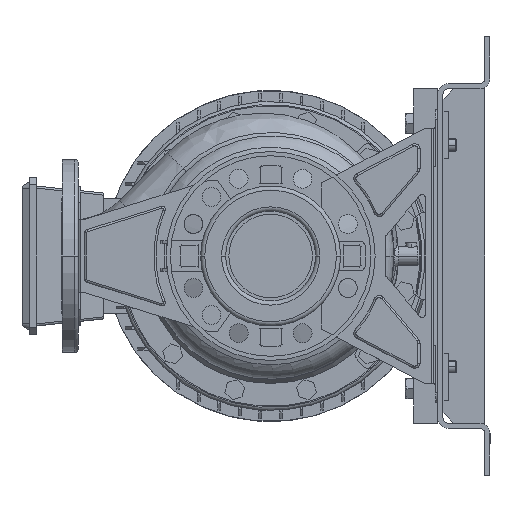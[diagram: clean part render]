
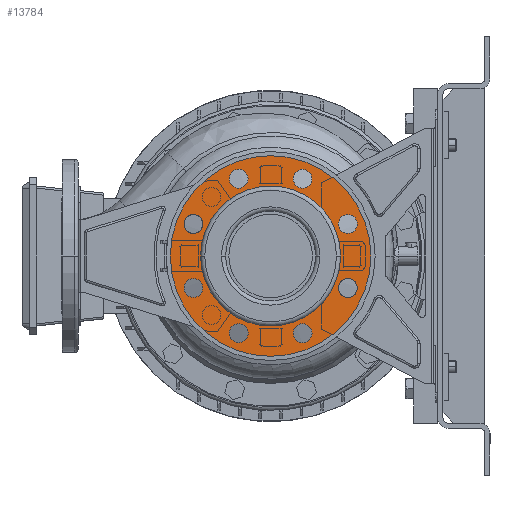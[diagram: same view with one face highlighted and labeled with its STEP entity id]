
A CAD part, left-side view. The second image highlights one B-rep face of the part: STEP entity #13784.
In plain terms, the highlighted planar face has unit normal (-1, 0, 0).
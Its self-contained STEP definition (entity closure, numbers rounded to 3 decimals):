
#12917=CARTESIAN_POINT('',(14.,0.,0.));
#12918=DIRECTION('',(-1.,0.,0.));
#12919=DIRECTION('',(0.,1.,0.));
#12920=AXIS2_PLACEMENT_3D('',#12917,#12918,#12919);
#12925=CARTESIAN_POINT('',(14.,0.,0.));
#12926=DIRECTION('',(1.,0.,0.));
#12927=DIRECTION('',(0.,1.,0.));
#12928=AXIS2_PLACEMENT_3D('',#12925,#12926,#12927);
#12933=CARTESIAN_POINT('',(14.,-73.91,30.615));
#12934=DIRECTION('',(1.,0.,0.));
#12935=DIRECTION('',(0.,1.,0.));
#12936=AXIS2_PLACEMENT_3D('',#12933,#12934,#12935);
#12941=CARTESIAN_POINT('',(14.,-73.91,30.615));
#12942=DIRECTION('',(1.,0.,0.));
#12943=DIRECTION('',(0.,-1.,0.));
#12944=AXIS2_PLACEMENT_3D('',#12941,#12942,#12943);
#12949=CARTESIAN_POINT('',(14.,-73.91,-30.615));
#12950=DIRECTION('',(1.,0.,0.));
#12951=DIRECTION('',(0.,0.707,0.707));
#12952=AXIS2_PLACEMENT_3D('',#12949,#12950,#12951);
#12957=CARTESIAN_POINT('',(14.,-73.91,-30.615));
#12958=DIRECTION('',(1.,0.,0.));
#12959=DIRECTION('',(0.,-0.707,-0.707));
#12960=AXIS2_PLACEMENT_3D('',#12957,#12958,#12959);
#12965=CARTESIAN_POINT('',(14.,-30.615,-73.91));
#12966=DIRECTION('',(1.,0.,0.));
#12967=DIRECTION('',(0.,0.,1.));
#12968=AXIS2_PLACEMENT_3D('',#12965,#12966,#12967);
#12973=CARTESIAN_POINT('',(14.,-30.615,-73.91));
#12974=DIRECTION('',(1.,0.,0.));
#12975=DIRECTION('',(0.,0.,-1.));
#12976=AXIS2_PLACEMENT_3D('',#12973,#12974,#12975);
#12981=CARTESIAN_POINT('',(14.,30.615,-73.91));
#12982=DIRECTION('',(1.,0.,0.));
#12983=DIRECTION('',(0.,-0.707,0.707));
#12984=AXIS2_PLACEMENT_3D('',#12981,#12982,#12983);
#12989=CARTESIAN_POINT('',(14.,30.615,-73.91));
#12990=DIRECTION('',(1.,0.,0.));
#12991=DIRECTION('',(0.,0.707,-0.707));
#12992=AXIS2_PLACEMENT_3D('',#12989,#12990,#12991);
#12997=CARTESIAN_POINT('',(14.,73.91,-30.615));
#12998=DIRECTION('',(1.,0.,0.));
#12999=DIRECTION('',(0.,-1.,0.));
#13000=AXIS2_PLACEMENT_3D('',#12997,#12998,#12999);
#13005=CARTESIAN_POINT('',(14.,73.91,-30.615));
#13006=DIRECTION('',(1.,0.,0.));
#13007=DIRECTION('',(0.,1.,0.));
#13008=AXIS2_PLACEMENT_3D('',#13005,#13006,#13007);
#13013=CARTESIAN_POINT('',(14.,73.91,30.615));
#13014=DIRECTION('',(1.,0.,0.));
#13015=DIRECTION('',(0.,-0.707,-0.707));
#13016=AXIS2_PLACEMENT_3D('',#13013,#13014,#13015);
#13021=CARTESIAN_POINT('',(14.,73.91,30.615));
#13022=DIRECTION('',(1.,0.,0.));
#13023=DIRECTION('',(0.,0.707,0.707));
#13024=AXIS2_PLACEMENT_3D('',#13021,#13022,#13023);
#13029=CARTESIAN_POINT('',(14.,30.615,73.91));
#13030=DIRECTION('',(1.,0.,0.));
#13031=DIRECTION('',(0.,0.,-1.));
#13032=AXIS2_PLACEMENT_3D('',#13029,#13030,#13031);
#13037=CARTESIAN_POINT('',(14.,30.615,73.91));
#13038=DIRECTION('',(1.,0.,0.));
#13039=DIRECTION('',(0.,0.,1.));
#13040=AXIS2_PLACEMENT_3D('',#13037,#13038,#13039);
#13045=CARTESIAN_POINT('',(14.,-30.615,73.91));
#13046=DIRECTION('',(1.,0.,0.));
#13047=DIRECTION('',(0.,0.707,-0.707));
#13048=AXIS2_PLACEMENT_3D('',#13045,#13046,#13047);
#13053=CARTESIAN_POINT('',(14.,-30.615,73.91));
#13054=DIRECTION('',(1.,0.,0.));
#13055=DIRECTION('',(0.,-0.707,0.707));
#13056=AXIS2_PLACEMENT_3D('',#13053,#13054,#13055);
#13061=CARTESIAN_POINT('',(14.,0.,0.));
#13062=DIRECTION('',(1.,0.,0.));
#13063=DIRECTION('',(0.,1.,0.));
#13064=AXIS2_PLACEMENT_3D('',#13061,#13062,#13063);
#13083=CARTESIAN_POINT('',(14.,0.,0.));
#13084=DIRECTION('',(-1.,0.,0.));
#13085=DIRECTION('',(0.,1.,0.));
#13086=AXIS2_PLACEMENT_3D('',#13083,#13084,#13085);
#13304=CARTESIAN_POINT('',(14.,96.,0.));
#13306=VERTEX_POINT('',#13304);
#13307=CARTESIAN_POINT('',(14.,67.,0.));
#13309=VERTEX_POINT('',#13307);
#13336=CARTESIAN_POINT('',(14.,-96.,0.));
#13338=VERTEX_POINT('',#13336);
#13339=CARTESIAN_POINT('',(14.,-67.,0.));
#13341=VERTEX_POINT('',#13339);
#13351=CARTESIAN_POINT('',(14.,-64.91,30.615));
#13352=CARTESIAN_POINT('',(14.,-82.91,30.615));
#13353=VERTEX_POINT('',#13351);
#13354=VERTEX_POINT('',#13352);
#13359=CARTESIAN_POINT('',(14.,-67.546,-24.251));
#13360=CARTESIAN_POINT('',(14.,-80.274,-36.979));
#13361=VERTEX_POINT('',#13359);
#13362=VERTEX_POINT('',#13360);
#13367=CARTESIAN_POINT('',(14.,-30.615,-64.91));
#13368=CARTESIAN_POINT('',(14.,-30.615,-82.91));
#13369=VERTEX_POINT('',#13367);
#13370=VERTEX_POINT('',#13368);
#13375=CARTESIAN_POINT('',(14.,24.251,-67.546));
#13376=CARTESIAN_POINT('',(14.,36.979,-80.274));
#13377=VERTEX_POINT('',#13375);
#13378=VERTEX_POINT('',#13376);
#13383=CARTESIAN_POINT('',(14.,64.91,-30.615));
#13384=CARTESIAN_POINT('',(14.,82.91,-30.615));
#13385=VERTEX_POINT('',#13383);
#13386=VERTEX_POINT('',#13384);
#13391=CARTESIAN_POINT('',(14.,67.546,24.251));
#13392=CARTESIAN_POINT('',(14.,80.274,36.979));
#13393=VERTEX_POINT('',#13391);
#13394=VERTEX_POINT('',#13392);
#13399=CARTESIAN_POINT('',(14.,30.615,64.91));
#13400=CARTESIAN_POINT('',(14.,30.615,82.91));
#13401=VERTEX_POINT('',#13399);
#13402=VERTEX_POINT('',#13400);
#13407=CARTESIAN_POINT('',(14.,-24.251,67.546));
#13408=CARTESIAN_POINT('',(14.,-36.979,80.274));
#13409=VERTEX_POINT('',#13407);
#13410=VERTEX_POINT('',#13408);
#13721=CARTESIAN_POINT('',(14.,0.,0.));
#13722=DIRECTION('',(1.,0.,0.));
#13723=DIRECTION('',(0.,-1.,0.));
#13724=AXIS2_PLACEMENT_3D('',#13721,#13722,#13723);
#13725=PLANE('',#13724);
#13726=ORIENTED_EDGE('',*,*,#13714,.F.);
#13727=ORIENTED_EDGE('',*,*,#13703,.T.);
#13728=EDGE_LOOP('',(#13726,#13727));
#13729=FACE_OUTER_BOUND('',#13728,.F.);
#13731=ORIENTED_EDGE('',*,*,#13730,.F.);
#13733=ORIENTED_EDGE('',*,*,#13732,.T.);
#13734=EDGE_LOOP('',(#13731,#13733));
#13735=FACE_BOUND('',#13734,.F.);
#13737=ORIENTED_EDGE('',*,*,#13736,.F.);
#13739=ORIENTED_EDGE('',*,*,#13738,.F.);
#13740=EDGE_LOOP('',(#13737,#13739));
#13741=FACE_BOUND('',#13740,.F.);
#13743=ORIENTED_EDGE('',*,*,#13742,.F.);
#13745=ORIENTED_EDGE('',*,*,#13744,.F.);
#13746=EDGE_LOOP('',(#13743,#13745));
#13747=FACE_BOUND('',#13746,.F.);
#13749=ORIENTED_EDGE('',*,*,#13748,.F.);
#13751=ORIENTED_EDGE('',*,*,#13750,.F.);
#13752=EDGE_LOOP('',(#13749,#13751));
#13753=FACE_BOUND('',#13752,.F.);
#13755=ORIENTED_EDGE('',*,*,#13754,.F.);
#13757=ORIENTED_EDGE('',*,*,#13756,.F.);
#13758=EDGE_LOOP('',(#13755,#13757));
#13759=FACE_BOUND('',#13758,.F.);
#13761=ORIENTED_EDGE('',*,*,#13760,.F.);
#13763=ORIENTED_EDGE('',*,*,#13762,.F.);
#13764=EDGE_LOOP('',(#13761,#13763));
#13765=FACE_BOUND('',#13764,.F.);
#13767=ORIENTED_EDGE('',*,*,#13766,.F.);
#13769=ORIENTED_EDGE('',*,*,#13768,.F.);
#13770=EDGE_LOOP('',(#13767,#13769));
#13771=FACE_BOUND('',#13770,.F.);
#13773=ORIENTED_EDGE('',*,*,#13772,.F.);
#13775=ORIENTED_EDGE('',*,*,#13774,.F.);
#13776=EDGE_LOOP('',(#13773,#13775));
#13777=FACE_BOUND('',#13776,.F.);
#13779=ORIENTED_EDGE('',*,*,#13778,.F.);
#13781=ORIENTED_EDGE('',*,*,#13780,.F.);
#13782=EDGE_LOOP('',(#13779,#13781));
#13783=FACE_BOUND('',#13782,.F.);
#12921=CIRCLE('',#12920,96.);
#12929=CIRCLE('',#12928,96.);
#12937=CIRCLE('',#12936,9.);
#12945=CIRCLE('',#12944,9.);
#12953=CIRCLE('',#12952,9.);
#12961=CIRCLE('',#12960,9.);
#12969=CIRCLE('',#12968,9.);
#12977=CIRCLE('',#12976,9.);
#12985=CIRCLE('',#12984,9.);
#12993=CIRCLE('',#12992,9.);
#13001=CIRCLE('',#13000,9.);
#13009=CIRCLE('',#13008,9.);
#13017=CIRCLE('',#13016,9.);
#13025=CIRCLE('',#13024,9.);
#13033=CIRCLE('',#13032,9.);
#13041=CIRCLE('',#13040,9.);
#13049=CIRCLE('',#13048,9.);
#13057=CIRCLE('',#13056,9.);
#13065=CIRCLE('',#13064,67.);
#13087=CIRCLE('',#13086,67.);
#13703=EDGE_CURVE('',#13306,#13338,#12929,.T.);
#13714=EDGE_CURVE('',#13306,#13338,#12921,.T.);
#13730=EDGE_CURVE('',#13309,#13341,#13065,.T.);
#13732=EDGE_CURVE('',#13309,#13341,#13087,.T.);
#13736=EDGE_CURVE('',#13353,#13354,#12937,.T.);
#13738=EDGE_CURVE('',#13354,#13353,#12945,.T.);
#13742=EDGE_CURVE('',#13361,#13362,#12953,.T.);
#13744=EDGE_CURVE('',#13362,#13361,#12961,.T.);
#13748=EDGE_CURVE('',#13369,#13370,#12969,.T.);
#13750=EDGE_CURVE('',#13370,#13369,#12977,.T.);
#13754=EDGE_CURVE('',#13377,#13378,#12985,.T.);
#13756=EDGE_CURVE('',#13378,#13377,#12993,.T.);
#13760=EDGE_CURVE('',#13385,#13386,#13001,.T.);
#13762=EDGE_CURVE('',#13386,#13385,#13009,.T.);
#13766=EDGE_CURVE('',#13393,#13394,#13017,.T.);
#13768=EDGE_CURVE('',#13394,#13393,#13025,.T.);
#13772=EDGE_CURVE('',#13401,#13402,#13033,.T.);
#13774=EDGE_CURVE('',#13402,#13401,#13041,.T.);
#13778=EDGE_CURVE('',#13409,#13410,#13049,.T.);
#13780=EDGE_CURVE('',#13410,#13409,#13057,.T.);
#13784=ADVANCED_FACE('',(#13729,#13735,#13741,#13747,#13753,#13759,#13765,
#13771,#13777,#13783),#13725,.F.);
